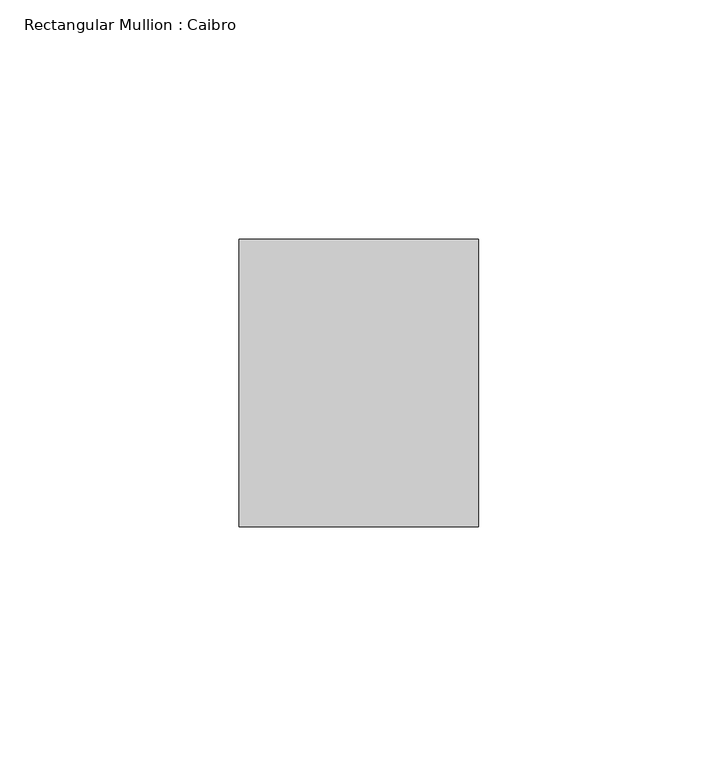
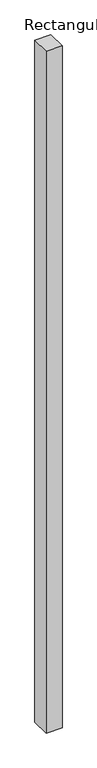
"""IFC4 building model written with IfcOpenShell, lengths in millimetres: member geometry, Rectangular Mullion : Caibro."""

from ifc_helpers import new_model, si_unit, frame, origin, place, context, project, spatial, polyline, outline, extrude, source, transform, mapped, element, save


def rectangular_mullion_caibro_1dc24f21(model_context):
    return source(origin(), model_context, "Body", "SweptSolid", [
        extrude(outline(polyline([(-50.0, -60.0), (-50.0, 0.0), (0.0, 0.0), (0.0, -60.0), (-50.0, -60.0)])), frame((0.0, 0.0, -2249.7393248), z_axis=(0.0, 0.0, 1.0), x_axis=(1.0, 0.0, 0.0)), (0.0, 0.0, 1.0), 2249.7393248),
    ])


if __name__ == "__main__":
    model = new_model("IFC4")
    model_context = context("Model", 3, world=origin())
    ifc_project = project(units=[si_unit("LENGTHUNIT", "METRE", prefix="MILLI")], contexts=[model_context])
    site = spatial("IfcSite", under=ifc_project)
    building = spatial("IfcBuilding", under=site)
    placement = place(None, origin())
    rectangular_mullion_caibro_shape = rectangular_mullion_caibro_1dc24f21(model_context)
    element("IfcMember", 1, ObjectType="Rectangular Mullion : Caibro", at=placement, inside=building, context=model_context, shape_type="MappedRepresentation", body=[
        mapped(rectangular_mullion_caibro_shape, transform((0.0, 0.0, 0.0), x_axis=(1.0, 0.0, 0.0), y_axis=(0.0, 1.0, 0.0), z_axis=(0.0, 0.0, 1.0))),
    ])
    save(model, "model.ifc")
